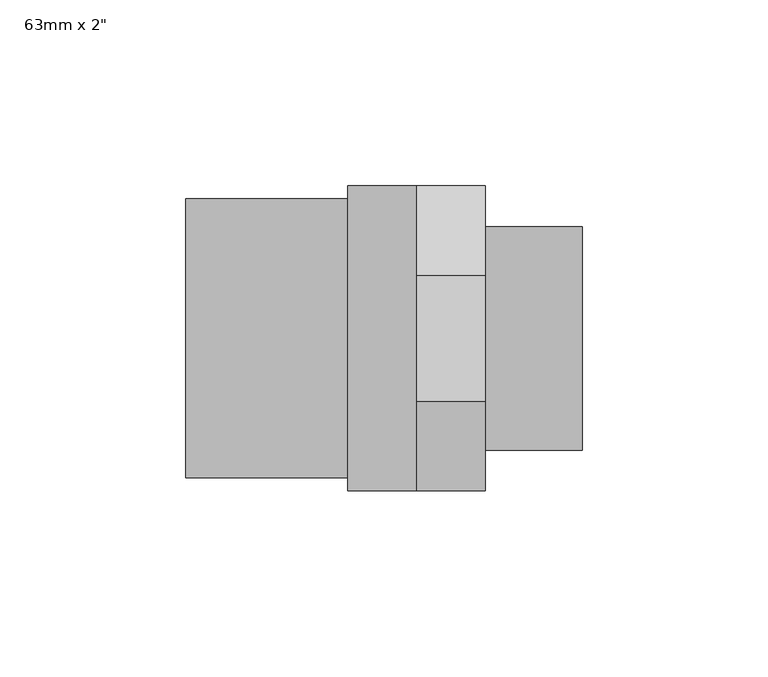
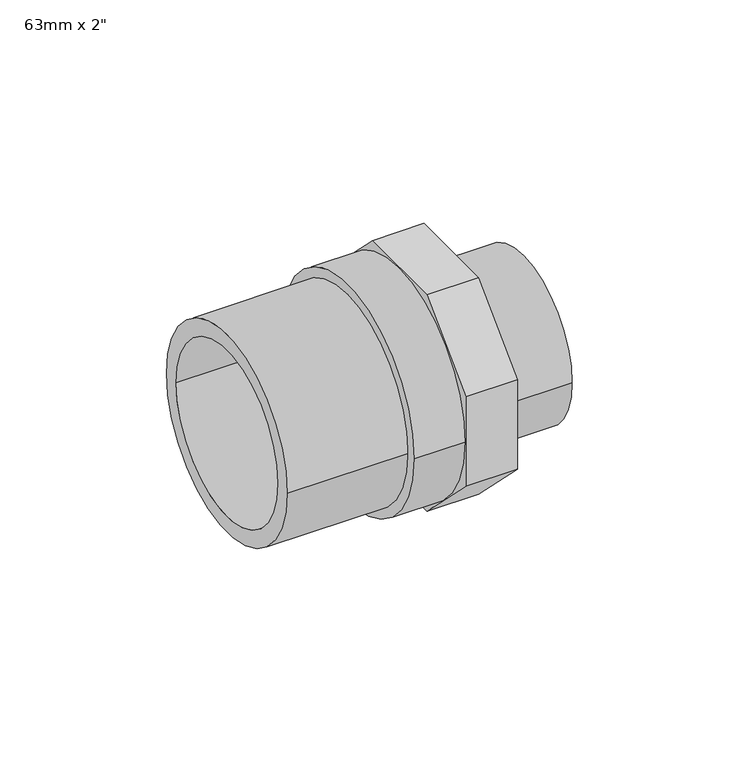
"""IFC4 building model written with IfcOpenShell, lengths in millimetres: pipe fitting geometry."""

import ifcopenshell
import ifcopenshell.guid

model = None  # the IFC model being written
_history = None  # IfcOwnerHistory: only IFC2X3 demands one
_inside = {}  # id of a spatial element -> (the spatial element, [elements in it])
_under = {}  # id of a project, library or spatial element -> (it, [spatial elements below it])
_declared = {}  # id of a project -> (the project, [libraries it declares])
_typed = {}  # id of a type object -> (the type object, [elements of that type])
_made_of = {}  # id of a material, layer set ... -> (it, [elements and type objects made of it])


def new_model(schema):
    """Start an empty IFC model of exactly this schema.

    Asked for "IFC4X3", IfcOpenShell would pick the latest addendum, in which some entities
    have other attributes; the version numbers below select the first issue.
    IFC2X3 requires an IfcOwnerHistory on every rooted entity: one is made here for all.
    """
    global model, _history
    if schema == "IFC4X3":
        model = ifcopenshell.file(schema_version=(4, 3, 0, 0))
    else:
        model = ifcopenshell.file(schema=schema)
    _inside.clear()
    _under.clear()
    _declared.clear()
    _typed.clear()
    _made_of.clear()
    _history = None
    if model.schema == "IFC2X3":
        org = make("IfcOrganization", Name="unknown")
        user = make(
            "IfcPersonAndOrganization",
            ThePerson=make("IfcPerson", FamilyName="unknown"),
            TheOrganization=org,
        )
        app = make(
            "IfcApplication",
            ApplicationDeveloper=org,
            Version="unknown",
            ApplicationFullName="unknown",
            ApplicationIdentifier="unknown",
        )
        _history = make(
            "IfcOwnerHistory",
            OwningUser=user,
            OwningApplication=app,
            ChangeAction="ADDED",
            CreationDate=0,
        )
    return model


def make(cls, **values):
    """One entity of the class cls with the attributes given. An attribute that is None is left unset."""
    return model.create_entity(
        cls, **{name: value for name, value in values.items() if value is not None}
    )


def rooted(cls, **values):
    """An entity with a GlobalId (a new one), such as an element, a storey or a relation."""
    return make(cls, GlobalId=ifcopenshell.guid.new(), OwnerHistory=_history, **values)


def si_unit(unit_type, name, prefix=None):
    """IfcSIUnit, for example si_unit("LENGTHUNIT", "METRE", prefix="MILLI")."""
    return make("IfcSIUnit", UnitType=unit_type, Prefix=prefix, Name=name)


def assignment(units):
    """IfcUnitAssignment: the units of a project."""
    return None if units is None else make("IfcUnitAssignment", Units=units)


def point(xyz):
    """IfcCartesianPoint."""
    return None if xyz is None else make("IfcCartesianPoint", Coordinates=xyz)


def direction(xyz):
    """IfcDirection."""
    return None if xyz is None else make("IfcDirection", DirectionRatios=xyz)


def frame(location, z_axis=None, x_axis=None):
    """IfcAxis2Placement3D, a coordinate frame: its origin and axes. An axis left out is left unset."""
    return make(
        "IfcAxis2Placement3D",
        Location=point(location),
        Axis=direction(z_axis),
        RefDirection=direction(x_axis),
    )


def frame_2d(location, x_axis=None):
    """IfcAxis2Placement2D, a coordinate frame in the plane: its origin and x axis."""
    return make(
        "IfcAxis2Placement2D", Location=point(location), RefDirection=direction(x_axis)
    )


def origin():
    """The frame at (0, 0, 0) with its axes left unset."""
    return frame((0.0, 0.0, 0.0))


def origin_2d():
    """The frame at (0, 0) in the plane with its x axis left unset."""
    return frame_2d((0.0, 0.0))


def place(relative_to, where):
    """IfcLocalPlacement: puts the frame where relative to a parent placement (None: the world)."""
    return make(
        "IfcLocalPlacement", PlacementRelTo=relative_to, RelativePlacement=where
    )


def context(
    kind, dimensions, precision=None, world=None, true_north=None, identifier=None
):
    """IfcGeometricRepresentationContext, for example the 3D "Model" context."""
    return make(
        "IfcGeometricRepresentationContext",
        ContextIdentifier=identifier,
        ContextType=kind,
        CoordinateSpaceDimension=dimensions,
        Precision=precision,
        WorldCoordinateSystem=world,
        TrueNorth=true_north,
    )


def project(units=None, contexts=None):
    """IfcProject with its units and contexts."""
    return rooted(
        "IfcProject",
        Name="project",
        RepresentationContexts=contexts,
        UnitsInContext=assignment(units),
    )


def spatial(cls, under=None, at=None, **own):
    """A site, building, storey or space (cls), placed at a placement, below another one or the project."""
    s = rooted(cls, ObjectPlacement=at, **own)
    if under is not None:
        _under.setdefault(under.id(), (under, []))[1].append(s)
    return s


def polyline(points):
    """IfcPolyline through the points."""
    return make("IfcPolyline", Points=[point(p) for p in points])


def circle_curve(where, radius):
    """IfcCircle in the frame where."""
    return make("IfcCircle", Position=where, Radius=radius)


def trimmed(basis, trim1, trim2, sense, master):
    """IfcTrimmedCurve: the piece of a basis curve between two trims."""
    return make(
        "IfcTrimmedCurve",
        BasisCurve=basis,
        Trim1=trim1,
        Trim2=trim2,
        SenseAgreement=sense,
        MasterRepresentation=master,
    )


def segment(curve, same_sense, transition):
    """IfcCompositeCurveSegment."""
    return make(
        "IfcCompositeCurveSegment",
        Transition=transition,
        SameSense=same_sense,
        ParentCurve=curve,
    )


def composite_curve(segments, self_intersect=None):
    """IfcCompositeCurve: segments joined end to end."""
    return make("IfcCompositeCurve", Segments=segments, SelfIntersect=self_intersect)


def outline(outer, holes=None, kind="AREA"):
    """IfcArbitraryClosedProfileDef: a profile drawn as a closed curve; with holes, ...WithVoids."""
    if holes is None:
        return make("IfcArbitraryClosedProfileDef", ProfileType=kind, OuterCurve=outer)
    return make(
        "IfcArbitraryProfileDefWithVoids",
        ProfileType=kind,
        OuterCurve=outer,
        InnerCurves=holes,
    )


def extrude(swept, where, along, depth):
    """IfcExtrudedAreaSolid: the profile swept, set in the frame where, extruded along a direction by depth."""
    return make(
        "IfcExtrudedAreaSolid",
        SweptArea=swept,
        Position=where,
        ExtrudedDirection=direction(along),
        Depth=depth,
    )


def shape(context_of_items, identifier, shape_type, items):
    """IfcShapeRepresentation: the items that make up one representation, for example the "Body"."""
    return make(
        "IfcShapeRepresentation",
        ContextOfItems=context_of_items,
        RepresentationIdentifier=identifier,
        RepresentationType=shape_type,
        Items=items,
    )


def source(mapping_origin, context_of_items, identifier, shape_type, items):
    """IfcRepresentationMap: a shape defined once, which mapped items show again and again."""
    return make(
        "IfcRepresentationMap",
        MappingOrigin=mapping_origin,
        MappedRepresentation=shape(context_of_items, identifier, shape_type, items),
    )


def transform(
    local_origin,
    x_axis=None,
    y_axis=None,
    z_axis=None,
    scale=None,
    scale2=None,
    scale3=None,
    uniform=True,
):
    """IfcCartesianTransformationOperator3D, or its non-uniform kind. x_axis, y_axis, z_axis: its Axis1, 2, 3."""
    if uniform:
        return make(
            "IfcCartesianTransformationOperator3D",
            Axis1=direction(x_axis),
            Axis2=direction(y_axis),
            LocalOrigin=point(local_origin),
            Scale=scale,
            Axis3=direction(z_axis),
        )
    return make(
        "IfcCartesianTransformationOperator3DnonUniform",
        Axis1=direction(x_axis),
        Axis2=direction(y_axis),
        LocalOrigin=point(local_origin),
        Scale=scale,
        Axis3=direction(z_axis),
        Scale2=scale2,
        Scale3=scale3,
    )


def mapped(mapping_source, mapping_target):
    """IfcMappedItem: shows the shape of a source again, moved by a transform."""
    return make(
        "IfcMappedItem", MappingSource=mapping_source, MappingTarget=mapping_target
    )


def made_of(thing, what):
    """Note that an element or type object is made of a material, layer set ...; save() writes the relation."""
    if what is not None:
        _made_of.setdefault(what.id(), (what, []))[1].append(thing)
    return thing


def element(
    cls,
    number,
    at=None,
    inside=None,
    cuts=None,
    type_object=None,
    material=None,
    context=None,
    identifier="Body",
    shape_type=None,
    held_by="IfcProductDefinitionShape",
    body=None,
    shapes=None,
    **own,
):
    """One element of the class cls, such as IfcWall. Its Tag is "e" and its number.

    at: its placement. inside: the storey or other place that contains it. cuts: it is an
    opening in that element (IfcRelVoidsElement). A single representation is given by context,
    identifier, shape_type and body (its items); several are given by shapes. held_by: the class
    of the entity that holds the representations. save() writes the other relations.
    """
    e = rooted(cls, Tag="e%d" % number, ObjectPlacement=at, **own)
    if body is not None:
        shapes = [shape(context, identifier, shape_type, body)]
    if shapes is not None:
        e.Representation = make(held_by, Representations=shapes)
    if inside is not None:
        _inside.setdefault(inside.id(), (inside, []))[1].append(e)
    if cuts is not None:
        rooted(
            "IfcRelVoidsElement", RelatingBuildingElement=cuts, RelatedOpeningElement=e
        )
    if type_object is not None:
        _typed.setdefault(type_object.id(), (type_object, []))[1].append(e)
    return made_of(e, material)


def aggregate(whole, parts):
    """IfcRelAggregates: a whole, such as a stair, and the parts it consists of."""
    return rooted("IfcRelAggregates", RelatingObject=whole, RelatedObjects=parts)


def save(model, path):
    """Write the relations noted so far, then the file.

    IfcRelAggregates (storeys below a building ...), IfcRelContainedInSpatialStructure (elements
    in a storey), IfcRelDefinesByType, IfcRelAssociatesMaterial and IfcRelDeclares: one each for
    every whole, place, type object, material and project.
    """
    for whole, parts in _under.values():
        aggregate(whole, parts)
    for where, things in _inside.values():
        rooted(
            "IfcRelContainedInSpatialStructure",
            RelatedElements=things,
            RelatingStructure=where,
        )
    for kind, things in _typed.values():
        rooted("IfcRelDefinesByType", RelatedObjects=things, RelatingType=kind)
    for what, things in _made_of.values():
        rooted("IfcRelAssociatesMaterial", RelatedObjects=things, RelatingMaterial=what)
    for by, libraries in _declared.values():
        rooted("IfcRelDeclares", RelatingContext=by, RelatedDefinitions=libraries)
    model.write(path)


def pipe_fitting_857b2c1c(model_context):
    return source(origin(), model_context, "Body", "SweptSolid", [
        extrude(outline(composite_curve([segment(trimmed(circle_curve(origin_2d(), 30.0), [point((-30.0, 0.0))], [point((30.0, 0.0))], False, "CARTESIAN"), True, "CONTINUOUS"), segment(trimmed(circle_curve(origin_2d(), 30.0), [point((30.0, 0.0))], [point((-30.0, 0.0))], False, "CARTESIAN"), True, "CONTINUOUS")], self_intersect=False), holes=[composite_curve([segment(trimmed(circle_curve(origin_2d(), 25.0), [point((-25.0, 0.0))], [point((25.0, 0.0))], True, "CARTESIAN"), True, "CONTINUOUS"), segment(trimmed(circle_curve(origin_2d(), 25.0), [point((25.0, 0.0))], [point((-25.0, 0.0))], True, "CARTESIAN"), True, "CONTINUOUS")], self_intersect=False)]), frame((27.25, 0.0, 0.0), z_axis=(1.0, 0.0, 0.0), x_axis=(0.0, 1.0, 0.0)), (0.0, 0.0, 1.0), 26.0),
        extrude(outline(polyline([(16.9827561, 41.0), (41.0, 16.9827561), (41.0, -16.9827561), (16.9827561, -41.0), (-16.9827561, -41.0), (-41.0, -16.9827561), (-41.0, 16.9827561), (-16.9827561, 41.0), (16.9827561, 41.0)]), holes=[composite_curve([segment(trimmed(circle_curve(origin_2d(), 25.0), [point((-25.0, 0.0))], [point((25.0, 0.0))], True, "CARTESIAN"), True, "CONTINUOUS"), segment(trimmed(circle_curve(origin_2d(), 25.0), [point((25.0, 0.0))], [point((-25.0, 0.0))], True, "CARTESIAN"), True, "CONTINUOUS")], self_intersect=False)]), frame((8.75, 0.0, 0.0), z_axis=(1.0, 0.0, 0.0), x_axis=(0.0, 1.0, 0.0)), (0.0, 0.0, 1.0), 18.5),
        extrude(outline(composite_curve([segment(trimmed(circle_curve(origin_2d(), 41.0), [point((-41.0, 0.0))], [point((41.0, 0.0))], False, "CARTESIAN"), True, "CONTINUOUS"), segment(trimmed(circle_curve(origin_2d(), 41.0), [point((41.0, 0.0))], [point((-41.0, 0.0))], False, "CARTESIAN"), True, "CONTINUOUS")], self_intersect=False), holes=[composite_curve([segment(trimmed(circle_curve(origin_2d(), 25.0), [point((-25.0, 0.0))], [point((25.0, 0.0))], True, "CARTESIAN"), True, "CONTINUOUS"), segment(trimmed(circle_curve(origin_2d(), 25.0), [point((25.0, 0.0))], [point((-25.0, 0.0))], True, "CARTESIAN"), True, "CONTINUOUS")], self_intersect=False)]), frame((-9.75, 0.0, 0.0), z_axis=(1.0, 0.0, 0.0), x_axis=(0.0, 1.0, 0.0)), (0.0, 0.0, 1.0), 18.5),
        extrude(outline(composite_curve([segment(trimmed(circle_curve(origin_2d(), 37.5), [point((-37.5, 0.0))], [point((37.5, 0.0))], False, "CARTESIAN"), True, "CONTINUOUS"), segment(trimmed(circle_curve(origin_2d(), 37.5), [point((37.5, 0.0))], [point((-37.5, 0.0))], False, "CARTESIAN"), True, "CONTINUOUS")], self_intersect=False), holes=[composite_curve([segment(trimmed(circle_curve(origin_2d(), 31.5), [point((-31.5, 0.0))], [point((31.5, 0.0))], True, "CARTESIAN"), True, "CONTINUOUS"), segment(trimmed(circle_curve(origin_2d(), 31.5), [point((31.5, 0.0))], [point((-31.5, 0.0))], True, "CARTESIAN"), True, "CONTINUOUS")], self_intersect=False)]), frame((-53.25, 0.0, 0.0), z_axis=(1.0, 0.0, 0.0), x_axis=(0.0, 1.0, 0.0)), (0.0, 0.0, 1.0), 43.5),
    ])


if __name__ == "__main__":
    model = new_model("IFC4")
    model_context = context("Model", 3, world=origin())
    ifc_project = project(units=[si_unit("LENGTHUNIT", "METRE", prefix="MILLI")], contexts=[model_context])
    site = spatial("IfcSite", under=ifc_project)
    building = spatial("IfcBuilding", under=site)
    placement = place(None, origin())
    pipe_fitting_shape = pipe_fitting_857b2c1c(model_context)
    element("IfcPipeFitting", 1, ObjectType="PipeFitting_HTA_CPVC_AdaptorNipplesA : 63mm x 2\"", at=placement, inside=building, context=model_context, shape_type="MappedRepresentation", body=[
        mapped(pipe_fitting_shape, transform((0.0, 0.0, 0.0), x_axis=(1.0, 0.0, 0.0), y_axis=(0.0, 1.0, 0.0), z_axis=(0.0, 0.0, 1.0))),
    ])
    save(model, "model.ifc")
